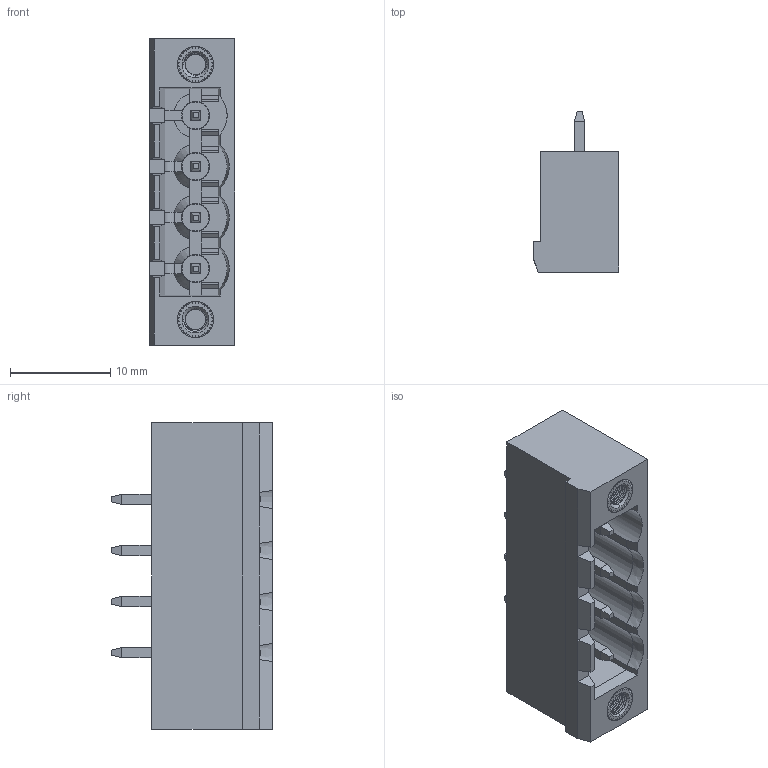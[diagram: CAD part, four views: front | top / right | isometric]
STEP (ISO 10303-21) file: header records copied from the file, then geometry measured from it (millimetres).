
FILE_DESCRIPTION(('Open CASCADE Model'),'2;1');
FILE_NAME('Open CASCADE Shape Model','2022-08-04T11:19:19',('Author'),( 'Open CASCADE'),'Open CASCADE STEP processor 6.5','Open CASCADE 6.5' ,'Unknown');
FILE_SCHEMA(('AUTOMOTIVE_DESIGN { 1 0 10303 214 1 1 1 1 }'));
Length unit declared in the file: millimetre
Products named in the file (718): CADSOFTTOOLS 10; CADSOFTTOOLS 10.1; CADSOFTTOOLS 10.2; CADSOFTTOOLS 10.3; CADSOFTTOOLS 10.4; CADSOFTTOOLS 10.5; CADSOFTTOOLS 10.6; CADSOFTTOOLS 10.7; CADSOFTTOOLS 10.8; CADSOFTTOOLS 10.9; CADSOFTTOOLS 10.10; CADSOFTTOOLS 10.11; CADSOFTTOOLS 10.12; CADSOFTTOOLS 10.13; CADSOFTTOOLS 10.14; CADSOFTTOOLS 10.15; CADSOFTTOOLS 10.16; CADSOFTTOOLS 10.17; CADSOFTTOOLS 10.18; CADSOFTTOOLS 10.19; CADSOFTTOOLS 10.20; CADSOFTTOOLS 10.21; CADSOFTTOOLS 10.22; CADSOFTTOOLS 10.23; CADSOFTTOOLS 10.24; CADSOFTTOOLS 10.25; CADSOFTTOOLS 10.26; CADSOFTTOOLS 10.27; CADSOFTTOOLS 10.28; CADSOFTTOOLS 10.29; CADSOFTTOOLS 10.30; CADSOFTTOOLS 10.31; CADSOFTTOOLS 10.32; CADSOFTTOOLS 10.33; CADSOFTTOOLS 10.34; CADSOFTTOOLS 10.35; CADSOFTTOOLS 10.36; CADSOFTTOOLS 10.37; CADSOFTTOOLS 10.38; CADSOFTTOOLS 10.39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
Assembly tree (717 placements, depth 2):
  CADSOFTTOOLS 10
    CADSOFTTOOLS 10.1
    CADSOFTTOOLS 10.2
    CADSOFTTOOLS 10.3
    CADSOFTTOOLS 10.4
    CADSOFTTOOLS 10.5
    CADSOFTTOOLS 10.6
    CADSOFTTOOLS 10.7
    CADSOFTTOOLS 10.8
    CADSOFTTOOLS 10.9
    CADSOFTTOOLS 10.10
    CADSOFTTOOLS 10.11
    CADSOFTTOOLS 10.12
    CADSOFTTOOLS 10.13
    CADSOFTTOOLS 10.14
    CADSOFTTOOLS 10.15
    CADSOFTTOOLS 10.16
    CADSOFTTOOLS 10.17
    CADSOFTTOOLS 10.18
    CADSOFTTOOLS 10.19
    CADSOFTTOOLS 10.20
    CADSOFTTOOLS 10.21
    CADSOFTTOOLS 10.22
    CADSOFTTOOLS 10.23
    CADSOFTTOOLS 10.24
    CADSOFTTOOLS 10.25
    CADSOFTTOOLS 10.26
    CADSOFTTOOLS 10.27
    CADSOFTTOOLS 10.28
    CADSOFTTOOLS 10.29
    CADSOFTTOOLS 10.30
    CADSOFTTOOLS 10.31
    CADSOFTTOOLS 10.32
    CADSOFTTOOLS 10.33
    CADSOFTTOOLS 10.34
    CADSOFTTOOLS 10.35
    CADSOFTTOOLS 10.36
    CADSOFTTOOLS 10.37
    CADSOFTTOOLS 10.38
    CADSOFTTOOLS 10.39
    CADSOFTTOOLS 10.40
    CADSOFTTOOLS 10.41
    CADSOFTTOOLS 10.42
    CADSOFTTOOLS 10.43
    CADSOFTTOOLS 10.44
    CADSOFTTOOLS 10.45
    CADSOFTTOOLS 10.46
    CADSOFTTOOLS 10.47
    CADSOFTTOOLS 10.48
    CADSOFTTOOLS 10.49
    CADSOFTTOOLS 10.50
    CADSOFTTOOLS 10.51
    CADSOFTTOOLS 10.52
    CADSOFTTOOLS 10.53
    CADSOFTTOOLS 10.54
    CADSOFTTOOLS 10.55
    CADSOFTTOOLS 10.56
    CADSOFTTOOLS 10.57
    CADSOFTTOOLS 10.58
    CADSOFTTOOLS 10.59
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Bounding box: 8.5 x 16 x 30.48 mm (x, y, z)
Surface area: 2928.6 mm2 (no closed solid volume)
Topology: 0 solids, 717 shells, 717 faces, 4242 edges, 4234 vertices
Faces by surface type: plane 465, cylinder 108, cone 100, bspline 36, sphere 8
Entity records: 157462 total; most frequent: CARTESIAN_POINT 93161, DIRECTION 9047, LINE 4877, VECTOR 4877, ORIENTED_EDGE 4234, EDGE_CURVE 4234, VERTEX_POINT 4234, SURFACE_CURVE 4234
